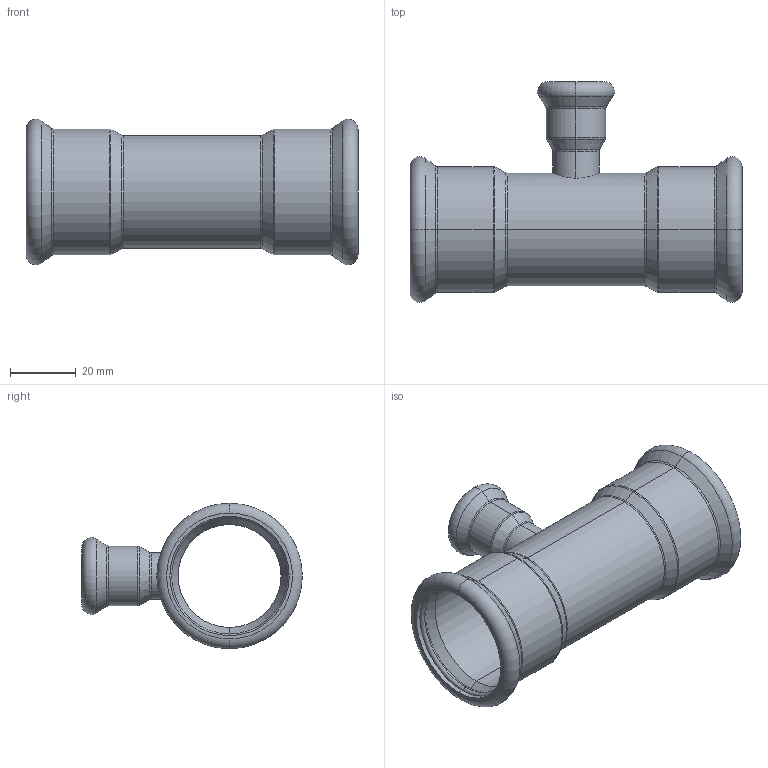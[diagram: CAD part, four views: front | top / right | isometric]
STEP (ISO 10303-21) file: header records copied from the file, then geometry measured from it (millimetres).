
FILE_DESCRIPTION (( 'STEP AP214' ), '1' );
FILE_NAME ('T35150R.STEP', '2025-08-18T00:46:38', ( '' ), ( '' ), 'SwSTEP 2.0', 'SolidWorks 2020', '' );
FILE_SCHEMA (( 'AUTOMOTIVE_DESIGN' ));
Length unit declared in the file: millimetre
Products named in the file (1): T35150R
Bounding box: 101 x 67.15 x 44.3 mm (x, y, z)
Volume: 21140.2 mm3; surface area: 29241.7 mm2
Topology: 4 solids, 4 shells, 98 faces, 198 edges, 106 vertices
Faces by surface type: torus 42, cylinder 26, cone 24, plane 6
Entity records: 3867 total; most frequent: CARTESIAN_POINT 577, DIRECTION 536, ORIENTED_EDGE 396, AXIS2_PLACEMENT_3D 243, EDGE_CURVE 198, CIRCLE 144, VERTEX_POINT 106, EDGE_LOOP 106
